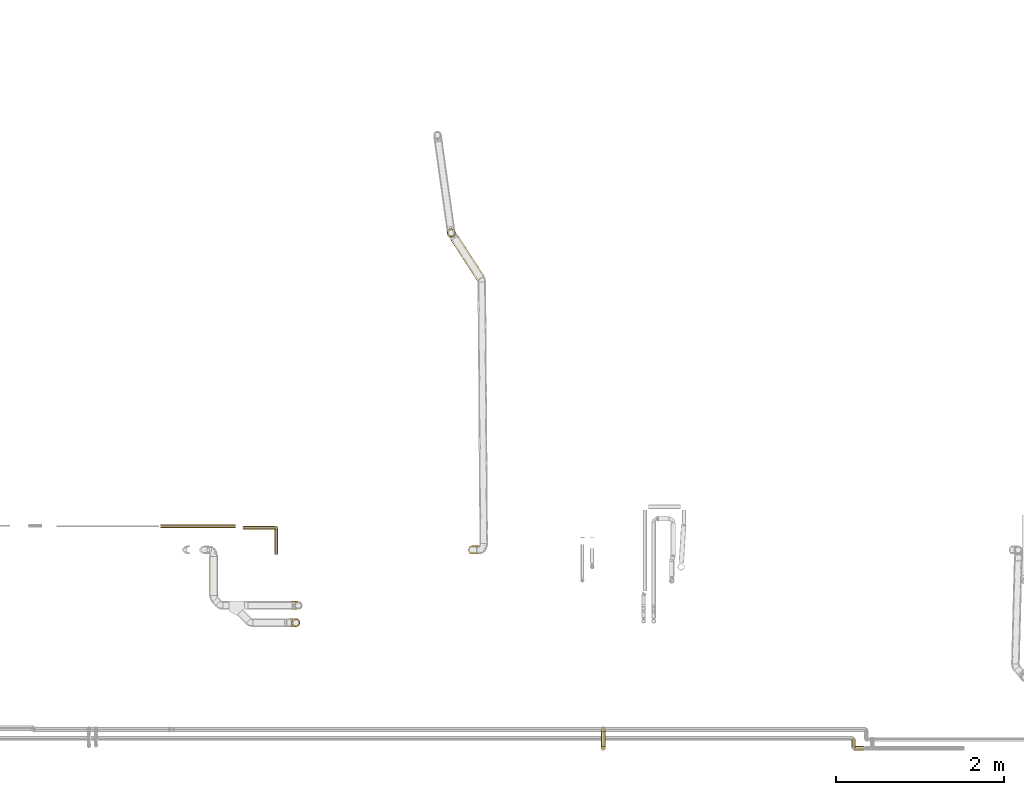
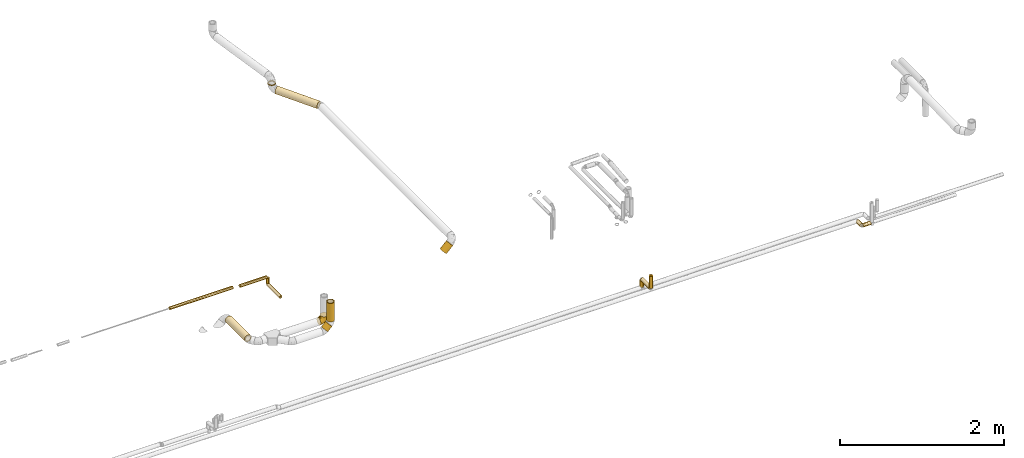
# One storey, part 6 of 156: 16 coverings.
"""IFC2X3 building model written with IfcOpenShell, lengths in millimetres."""

from ifc_helpers import new_model, entity, si_unit, converted_unit, derived_unit, direction, frame, origin_with_axes, origin_2d_with_axis, place, context, subcontext, project, spatial, hollow_circle, extrude, open_shell, surface_model, source, transform, mapped, element, save


model = new_model("IFC2X3")

# Units and contexts
model_context = context("Model", 3, precision=0.01, world=frame((0.0, 4.29681676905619e-09, 0.0)), true_north=direction((4.01073788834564e-13, 1.0)))
plan_context = context("Plan", 3, precision=0.01, world=frame((0.0, 4.29681676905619e-09, 0.0)), true_north=direction((4.01073788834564e-13, 1.0)))
body_context = subcontext(model_context, "Body", "Model", "MODEL_VIEW")
ifc_project = project(units=[converted_unit("PLANEANGLEUNIT", "DEGREE", entity("IfcPositiveLengthMeasure", 0.0174532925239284), si_unit("PLANEANGLEUNIT", "RADIAN"), dimensions=[0, 0, 0, 0, 0, 0, 0]), si_unit("AREAUNIT", "SQUARE_METRE"), si_unit("LENGTHUNIT", "METRE", prefix="MILLI"), si_unit("MASSUNIT", "GRAM", prefix="KILO"), si_unit("POWERUNIT", "WATT"), si_unit("PRESSUREUNIT", "PASCAL", prefix="KILO"), si_unit("FORCEUNIT", "NEWTON", prefix="KILO"), si_unit("ELECTRICVOLTAGEUNIT", "VOLT"), si_unit("ELECTRICCURRENTUNIT", "AMPERE"), si_unit("THERMODYNAMICTEMPERATUREUNIT", "DEGREE_CELSIUS"), si_unit("TIMEUNIT", "SECOND"), si_unit("VOLUMEUNIT", "CUBIC_METRE"), derived_unit("LINEARVELOCITYUNIT", [(si_unit("LENGTHUNIT", "METRE"), 1), (si_unit("TIMEUNIT", "SECOND"), -1)]), derived_unit("VOLUMETRICFLOWRATEUNIT", [(si_unit("VOLUMEUNIT", "CUBIC_METRE"), 1), (si_unit("TIMEUNIT", "SECOND"), -1)]), derived_unit("THERMALTRANSMITTANCEUNIT", [(si_unit("POWERUNIT", "WATT"), 1), (si_unit("THERMODYNAMICTEMPERATUREUNIT", "KELVIN"), -1), (si_unit("AREAUNIT", "SQUARE_METRE"), -1)]), derived_unit("SOUNDPRESSUREUNIT", [(si_unit("PRESSUREUNIT", "PASCAL"), 1)])], contexts=[model_context, plan_context])

# Site, building, storey
site_placement = place(None, frame((0.0, -4.29681676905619e-09, 0.0), z_axis=(0.0, 0.0, 1.0), x_axis=(1.0, 0.0, 0.0)))
site = spatial("IfcSite", under=ifc_project, at=site_placement, CompositionType="ELEMENT")
building_placement = place(site_placement, frame((0.0, 4.29681676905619e-09, 0.0), z_axis=(0.0, 0.0, 1.0), x_axis=(1.0, 0.0, 0.0)))
building = spatial("IfcBuilding", under=site, at=building_placement, Name="mc-building", CompositionType="ELEMENT")
storey_placement = place(building_placement, frame((0.0, 0.0, 205200.0), z_axis=(0.0, 0.0, 1.0), x_axis=(1.0, 0.0, 0.0)))
storey = spatial("IfcBuildingStorey", under=building, at=storey_placement, Name="Nivå D + 1,2 m", CompositionType="ELEMENT", Elevation=205200.0)

# Coverings
shared_shape_1 = source(origin_with_axes(), body_context, "Body", "SweptSolid", [
    extrude(hollow_circle(Radius=50.5, WallThickness=13.0, at=origin_2d_with_axis()), frame((0.0, 0.0, 0.0), z_axis=(1.0, 0.0, 0.0), x_axis=(0.0, 1.0, 0.0)), (0.0, 0.0, 1.0), 467.3),
])
covering_1_placement = place(storey_placement, frame((338407.25109, 461093.55164, 4098.75644), z_axis=(-0.707106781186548, 0.0, -0.707106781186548), x_axis=(0.0, -1.0, 0.0)))
element("IfcCovering", 1, at=covering_1_placement, inside=storey, Name="BI17T - Cellegummi 13 mm SPV fett", PredefinedType="INSULATION", context=body_context, shape_type="MappedRepresentation", body=[
    mapped(shared_shape_1, transform((0.0, 0.0, 0.0), scale=1.0)),
])
shared_shape_2 = source(origin_with_axes(), body_context, "Body", "SurfaceModel", [
    surface_model("IfcShellBasedSurfaceModel", [(11.24292, 75.0, 49.23258), (-31.47888, 75.0, 39.48835), (0.0, 75.0, 50.5), (31.49394, 75.0, 39.47635), (21.91909, 75.0, 45.49509), (45.50245, 75.0, 21.90382), (39.48835, 75.0, 31.47888), (-45.50245, 75.0, -21.90382), (-49.23258, 75.0, 11.24292), (-11.23089, 75.0, 49.23533), (-21.90382, 75.0, 45.50245), (-45.49509, 75.0, 21.91909), (-39.47635, 75.0, 31.49394), (-50.5, 75.0, 0.0), (49.23533, 75.0, 11.23089), (49.23258, 75.0, -11.24292), (39.47635, 75.0, -31.49394), (45.49509, 75.0, -21.91909), (31.47888, 75.0, -39.48835), (21.90382, 75.0, -45.50245), (-11.24292, 75.0, -49.23258), (11.23089, 75.0, -49.23533), (0.0, 75.0, -50.5), (-31.49394, 75.0, -39.47635), (-39.48835, 75.0, -31.47888), (-49.23533, 75.0, -11.23089), (-21.91909, 75.0, -45.49509), (50.5, 75.0, 0.0), (-75.0, 25.25, -43.73428), (-75.0, 50.5, 0.0), (-75.0, 48.77925, -13.07036), (-75.0, 43.73428, -25.25), (-75.0, 13.07036, 48.77925), (-75.0, 35.70889, -35.70889), (-75.0, 13.07036, -48.77925), (-75.0, 48.77925, 13.07036), (-75.0, 35.70889, 35.70889), (-75.0, 43.73428, 25.25), (-75.0, 25.25, 43.73428), (-75.0, 0.0, 50.5), (-75.0, 0.0, -50.5), (-75.0, -35.70889, -35.70889), (-75.0, -13.07036, -48.77925), (-75.0, -25.25, -43.73428), (-75.0, -25.25, 43.73428), (-75.0, -43.73428, -25.25), (-75.0, -48.77925, -13.07036), (-75.0, -50.5, 0.0), (-75.0, -35.70889, 35.70889), (-75.0, -13.07036, 48.77925), (-75.0, -43.73428, 25.25), (-75.0, -48.77925, 13.07036), (12.64934, -12.64934, 0.0), (26.53163, 1.23295, 0.0), (11.64011, -11.64012, 17.0697), (-36.21837, -44.35759, 0.0), (-43.96193, -45.82224, 8.69831), (-50.1633, -46.56625, 0.0), (-13.93902, -32.39238, 13.94061), (-27.04529, -32.26369, 27.28364), (-45.2062, -43.62199, 17.67364), (-52.64686, -39.03065, 29.20162), (6.1382, 52.8732, 49.67312), (-19.65704, -0.83379, 46.83764), (-49.45987, -19.06709, 45.22422), (-23.23209, -15.49393, 41.16316), (-49.7688, -7.34228, 49.26021), (-44.8156, -29.06527, 37.91745), (33.6367, 44.70154, 33.50702), (26.64162, 52.3117, 41.24235), (21.07138, 25.24575, 38.06097), (-4.22725, 24.69178, 49.09447), (-5.70904, 46.29874, 50.5), (-21.96699, 21.96699, 50.5), (0.2263, 8.20988, 43.53163), (35.45552, 17.83502, 10.6165), (44.35759, 36.21837, 0.0), (44.47618, 45.03363, 15.14065), (-46.29874, 5.70904, 50.5), (-27.11707, 6.63076, 49.78474), (33.03742, 23.23942, 23.31327), (41.55445, 52.84592, 25.41048), (46.56625, 50.1633, 0.0), (4.57882, -11.26336, 27.48812), (22.55206, 4.12106, 21.73596), (19.66588, 8.90627, 30.22564), (-1.23295, -26.53163, 0.0), (12.07449, 31.0651, 45.19532), (17.71923, 53.83757, 46.32595), (3.04218, -2.48883, 36.42539), (-13.45794, -19.37586, 33.63512), (-18.72566, -35.44461, 0.0), (35.44461, 18.72566, 0.0), (-48.52842, 68.17879, 16.68598), (-55.27416, 12.69306, 49.57038), (-58.88306, 3.20586, 50.5), (-38.27136, 29.97394, 47.59046), (-23.57111, 41.59228, 48.61379), (-36.94496, 65.19489, 35.7157), (-27.7375, 65.85146, 42.76423), (-61.4974, 42.7792, 30.74245), (-63.84733, 32.17071, 40.06434), (-51.42312, 36.25154, 40.88495), (-45.46439, 62.06116, 26.87553), (-43.34221, 68.87219, 26.87553), (-36.51863, 43.60511, 43.68418), (-65.25465, 51.47265, 9.82931), (-62.75, 53.78238, 0.0), (-68.875, 52.14119, 0.0), (-51.88239, 69.84084, 0.0), (-64.63162, 17.93727, 47.55155), (-67.6261, 47.6319, 19.32551), (-68.85458, 40.6091, 30.74245), (-44.41033, 19.8553, 49.06838), (-54.82145, 23.11094, 46.65592), (-18.51685, 60.44696, 47.66853), (-54.54935, 48.93662, 28.23238), (-62.70186, 49.7903, 18.59835), (-3.20586, 58.88306, 50.5), (-61.04403, 53.85982, 9.12542), (-30.90564, 55.6835, 42.76423), (-40.3113, 56.53409, 35.71531), (-52.18855, 61.13263, 14.72938), (-53.78238, 62.75, 0.0), (-56.73444, 57.02186, 10.61847), (-58.26619, 58.26619, 0.0), (-13.83801, 34.13287, 50.5), (-70.20679, 50.0494, 9.52724), (-46.98514, 47.44109, 35.7157), (-50.60359, 55.15507, 25.56392), (-52.83369, 43.2423, 35.13728), (-58.30018, 52.78702, 17.93024), (-34.13287, 13.83801, 50.5), (-51.7235, 52.67811, -26.88284), (-57.10258, 45.71425, -29.92521), (-56.9186, 54.00325, -17.71529), (-60.51936, 21.24165, -46.65592), (-70.0781, 47.08652, -19.32551), (-67.84416, 50.44944, -10.35086), (-64.15319, 48.81348, -19.32551), (-18.53163, 60.44501, -47.6637), (-62.8657, 52.46804, -10.44324), (-57.90228, 34.17845, -40.06435), (-65.95799, 41.25474, -30.74245), (-43.35228, 68.87084, -26.8602), (-48.5334, 68.17884, -16.67216), (-45.47548, 62.05985, -26.8602), (-36.95883, 65.19564, -35.70208), (-55.23148, 12.55824, -49.59768), (-52.18863, 61.13975, -14.71703), (-67.2194, 31.43175, -40.06434), (-55.97795, 58.02605, -9.97117), (-3.20586, 58.88306, -50.5), (-51.08787, 25.5783, -46.32865), (-41.32575, 29.23594, -47.11339), (-44.57478, 19.12548, -49.20135), (-23.58829, 41.57625, -48.61219), (-31.49814, 46.19734, -45.04631), (-38.07713, 57.85881, -37.07141), (-30.92319, 55.68162, -42.7546), (-38.79962, 50.15024, -39.79427), (-27.75338, 65.85005, -42.7546), (-40.50037, 40.68263, -43.08729), (-31.85017, 34.10086, -48.04724), (-5.70904, 46.29874, -50.5), (-21.96699, 21.96699, -50.5), (-13.83801, 34.13287, -50.5), (-32.99402, 23.81556, -49.7299), (-58.88306, 3.20586, -50.5), (-49.98369, 39.29273, -39.54988), (-47.00535, 47.43996, -35.70209), (-69.84084, 51.88239, 0.0), (-44.82061, 55.09846, -32.26415), (-49.27707, 57.82009, -24.66381), (-46.29874, 5.70904, -50.5), (-34.13287, 13.83801, -50.5), (-27.12034, 6.63398, -49.78551), (-44.8115, -29.06446, -37.91714), (-49.45933, -19.06701, -45.22419), (-23.22135, -15.48723, -41.1635), (3.03431, -2.47986, -36.43681), (0.21934, 8.21978, -43.53855), (21.06009, 25.25195, -38.07219), (19.65845, 8.91335, -30.23922), (-4.23256, 24.69711, -49.09625), (-49.7688, -7.34228, -49.26021), (-43.96192, -45.82226, -8.69822), (-45.20209, -43.62105, -17.67341), (-19.66242, -0.82834, -46.8407), (12.06287, 31.07048, -45.20169), (-52.64059, -39.02974, -29.20117), (-27.03461, -32.25951, -27.28279), (11.63925, -11.63926, -17.0731), (4.56555, -11.2681, -27.49661), (6.13272, 52.87845, -49.67434), (44.47172, 45.03273, -15.15371), (33.62422, 44.70155, -33.52058), (35.44701, 17.82392, -10.62791), (26.62716, 52.31215, -41.25239), (-13.93805, -32.39219, -13.93949), (22.54286, 4.11912, -21.74918), (33.03036, 23.24222, -23.32782), (41.54481, 52.84076, -25.42509), (-13.43916, -19.35244, -33.6456), (17.70473, 53.84028, -46.33234)], [open_shell([[[0, 1, 2]], [[3, 0, 4]], [[0, 5, 1]], [[6, 5, 0]], [[3, 6, 0]], [[5, 7, 8]], [[9, 1, 10]], [[9, 2, 1]], [[11, 12, 8]], [[8, 12, 1]], [[5, 8, 1]], [[7, 13, 8]], [[5, 14, 7]], [[7, 14, 15]], [[16, 15, 17]], [[16, 18, 19]], [[19, 20, 15]], [[19, 15, 16]], [[21, 22, 19]], [[7, 23, 24]], [[25, 13, 7]], [[20, 23, 7]], [[26, 23, 20]], [[7, 15, 20]], [[22, 20, 19]], [[14, 27, 15]], [[28, 29, 30]], [[28, 30, 31]], [[29, 28, 32]], [[28, 31, 33]], [[32, 28, 34]], [[35, 36, 37]], [[36, 35, 32]], [[36, 32, 38]], [[35, 29, 32]], [[34, 39, 32]], [[34, 40, 39]], [[41, 40, 42]], [[41, 42, 43]], [[44, 41, 45]], [[41, 44, 39]], [[46, 47, 45]], [[44, 47, 48]], [[49, 39, 44]], [[50, 47, 51]], [[47, 50, 48]], [[45, 47, 44]], [[39, 40, 41]], [[52, 53, 54]], [[55, 56, 57]], [[58, 59, 60]], [[60, 59, 61]], [[62, 0, 2]], [[63, 64, 65]], [[50, 51, 60]], [[49, 64, 66]], [[48, 67, 44]], [[61, 48, 50]], [[68, 69, 70]], [[69, 3, 4]], [[71, 72, 73]], [[39, 49, 66]], [[63, 65, 74]], [[75, 76, 77]], [[78, 79, 73]], [[75, 77, 80]], [[69, 68, 3]], [[64, 44, 67]], [[5, 77, 14]], [[48, 61, 67]], [[5, 6, 81]], [[77, 82, 14]], [[79, 71, 73]], [[54, 83, 58]], [[54, 84, 83]], [[68, 6, 3]], [[62, 2, 72]], [[68, 70, 85]], [[51, 57, 56]], [[54, 86, 52]], [[87, 88, 62]], [[87, 69, 88]], [[44, 64, 49]], [[83, 89, 90]], [[80, 77, 81]], [[56, 91, 58]], [[80, 68, 85]], [[81, 77, 5]], [[74, 71, 63]], [[60, 61, 50]], [[58, 60, 56]], [[58, 86, 54]], [[88, 69, 4]], [[70, 69, 87]], [[74, 70, 87]], [[70, 89, 85]], [[6, 68, 81]], [[80, 81, 68]], [[65, 64, 67]], [[63, 79, 66]], [[90, 67, 59]], [[74, 65, 89]], [[63, 66, 64]], [[39, 66, 78]], [[72, 71, 62]], [[87, 62, 71]], [[75, 80, 84]], [[75, 53, 92]], [[4, 0, 88]], [[62, 88, 0]], [[82, 77, 76]], [[82, 27, 14]], [[67, 61, 59]], [[51, 47, 57]], [[51, 56, 60]], [[66, 79, 78]], [[71, 79, 63]], [[83, 85, 89]], [[84, 80, 85]], [[90, 89, 65]], [[58, 83, 59]], [[67, 90, 65]], [[59, 83, 90]], [[83, 84, 85]], [[75, 84, 54]], [[70, 74, 89]], [[71, 74, 87]], [[54, 53, 75]], [[91, 56, 55]], [[91, 86, 58]], [[76, 75, 92]], [[11, 8, 93]], [[78, 94, 95]], [[96, 73, 97]], [[94, 32, 95]], [[98, 99, 1]], [[100, 101, 102]], [[103, 104, 93]], [[105, 102, 96]], [[106, 107, 108]], [[8, 109, 93]], [[110, 101, 38]], [[37, 111, 35]], [[36, 112, 37]], [[37, 112, 111]], [[8, 13, 109]], [[113, 96, 114]], [[97, 72, 115]], [[100, 116, 117]], [[98, 1, 12]], [[10, 99, 115]], [[32, 94, 110]], [[12, 11, 104]], [[115, 118, 9]], [[10, 115, 9]], [[106, 119, 107]], [[120, 99, 98]], [[121, 120, 98]], [[103, 93, 122]], [[93, 123, 122]], [[124, 123, 125]], [[97, 115, 120]], [[104, 98, 12]], [[38, 101, 36]], [[121, 98, 103]], [[97, 105, 96]], [[10, 1, 99]], [[97, 73, 126]], [[123, 93, 109]], [[111, 106, 127]], [[128, 129, 116]], [[129, 103, 122]], [[102, 101, 114]], [[112, 101, 100]], [[125, 119, 124]], [[129, 128, 121]], [[96, 102, 114]], [[130, 128, 116]], [[113, 114, 94]], [[97, 120, 105]], [[118, 115, 72]], [[118, 2, 9]], [[35, 127, 29]], [[115, 99, 120]], [[93, 104, 11]], [[98, 104, 103]], [[124, 129, 122]], [[119, 125, 107]], [[116, 129, 131]], [[32, 39, 95]], [[132, 113, 78]], [[94, 114, 110]], [[96, 132, 73]], [[78, 113, 94]], [[132, 96, 113]], [[101, 110, 114]], [[38, 32, 110]], [[127, 106, 108]], [[117, 106, 111]], [[121, 105, 120]], [[102, 105, 128]], [[29, 127, 108]], [[111, 127, 35]], [[129, 121, 103]], [[105, 121, 128]], [[117, 116, 131]], [[130, 100, 102]], [[101, 112, 36]], [[111, 112, 100]], [[100, 117, 111]], [[119, 117, 131]], [[117, 119, 106]], [[119, 131, 124]], [[129, 124, 131]], [[123, 124, 122]], [[100, 130, 116]], [[102, 128, 130]], [[126, 72, 97]], [[133, 134, 135]], [[28, 136, 34]], [[137, 138, 139]], [[140, 26, 20]], [[141, 138, 107]], [[134, 142, 143]], [[144, 145, 7]], [[146, 144, 147]], [[148, 34, 136]], [[145, 146, 149]], [[150, 28, 33]], [[31, 137, 143]], [[125, 151, 141]], [[28, 150, 136]], [[109, 13, 25]], [[140, 20, 152]], [[149, 123, 145]], [[153, 154, 155]], [[145, 123, 109]], [[145, 25, 7]], [[137, 31, 30]], [[148, 153, 155]], [[140, 156, 157]], [[23, 147, 24]], [[158, 159, 160]], [[23, 26, 161]], [[158, 147, 159]], [[162, 157, 163]], [[164, 140, 152]], [[31, 143, 33]], [[161, 147, 23]], [[161, 140, 159]], [[162, 160, 157]], [[156, 140, 164]], [[165, 156, 166]], [[24, 144, 7]], [[154, 167, 155]], [[109, 25, 145]], [[34, 148, 168]], [[162, 169, 170]], [[141, 151, 135]], [[30, 29, 171]], [[134, 143, 139]], [[150, 143, 142]], [[146, 172, 173]], [[149, 135, 151]], [[20, 22, 152]], [[140, 161, 26]], [[147, 161, 159]], [[147, 144, 24]], [[145, 144, 146]], [[135, 134, 139]], [[134, 170, 169]], [[141, 139, 138]], [[172, 133, 173]], [[168, 148, 174]], [[168, 40, 34]], [[167, 165, 175]], [[175, 174, 155]], [[148, 155, 174]], [[163, 167, 154]], [[175, 155, 167]], [[153, 148, 136]], [[136, 142, 153]], [[169, 153, 142]], [[162, 163, 154]], [[163, 156, 165]], [[154, 153, 169]], [[160, 162, 170]], [[154, 169, 162]], [[134, 169, 142]], [[172, 160, 170]], [[157, 160, 159]], [[133, 172, 170]], [[158, 146, 147]], [[134, 133, 170]], [[173, 135, 149]], [[140, 157, 159]], [[157, 156, 163]], [[160, 172, 158]], [[146, 158, 172]], [[135, 173, 133]], [[149, 151, 123]], [[149, 146, 173]], [[143, 150, 33]], [[136, 150, 142]], [[138, 30, 171]], [[143, 137, 139]], [[30, 138, 137]], [[107, 138, 171]], [[125, 141, 107]], [[135, 139, 141]], [[156, 164, 166]], [[165, 167, 163]], [[123, 151, 125]], [[174, 165, 176]], [[177, 178, 179]], [[180, 179, 181]], [[180, 182, 183]], [[165, 164, 184]], [[174, 185, 40]], [[178, 43, 42]], [[177, 43, 178]], [[186, 46, 187]], [[176, 184, 188]], [[181, 184, 189]], [[190, 187, 45]], [[45, 187, 46]], [[190, 177, 191]], [[52, 86, 192]], [[177, 41, 43]], [[183, 193, 180]], [[189, 184, 194]], [[22, 194, 164]], [[192, 53, 52]], [[22, 21, 194]], [[17, 15, 195]], [[16, 196, 18]], [[197, 76, 92]], [[195, 15, 82]], [[196, 198, 18]], [[199, 187, 191]], [[197, 192, 200]], [[201, 195, 197]], [[16, 17, 202]], [[189, 198, 182]], [[202, 17, 195]], [[76, 195, 82]], [[188, 178, 185]], [[177, 179, 203]], [[202, 201, 196]], [[183, 182, 196]], [[190, 45, 41]], [[18, 198, 19]], [[19, 198, 204]], [[46, 186, 57]], [[199, 91, 186]], [[199, 191, 193]], [[91, 55, 186]], [[182, 198, 196]], [[204, 198, 189]], [[183, 196, 201]], [[181, 182, 180]], [[201, 202, 195]], [[196, 16, 202]], [[185, 178, 42]], [[179, 178, 188]], [[181, 179, 188]], [[180, 193, 203]], [[40, 185, 42]], [[185, 174, 176]], [[194, 21, 204]], [[184, 164, 194]], [[76, 197, 195]], [[197, 53, 192]], [[194, 204, 189]], [[21, 19, 204]], [[15, 27, 82]], [[177, 190, 41]], [[187, 190, 191]], [[57, 186, 55]], [[57, 47, 46]], [[199, 186, 187]], [[184, 176, 165]], [[185, 176, 188]], [[201, 200, 183]], [[183, 200, 193]], [[199, 193, 192]], [[180, 203, 179]], [[193, 191, 203]], [[177, 203, 191]], [[197, 200, 201]], [[193, 200, 192]], [[184, 181, 188]], [[182, 181, 189]], [[192, 86, 199]], [[199, 86, 91]], [[92, 53, 197]]])]),
])
covering_2_placement = place(storey_placement, frame((339411.91478, 460509.27805, 4098.75644), z_axis=(0.0, 1.0, 0.0), x_axis=(0.0, 0.0, -1.0)))
element("IfcCovering", 2, at=covering_2_placement, inside=storey, Name="BI17T - Cellegummi 13 mm SPV fett", PredefinedType="INSULATION", context=body_context, shape_type="MappedRepresentation", body=[
    mapped(shared_shape_2, transform((0.0, 0.0, 0.0), scale=1.0)),
])
shared_shape_3 = source(origin_with_axes(), body_context, "Body", "SweptSolid", [
    extrude(hollow_circle(Radius=50.5, WallThickness=13.0, at=origin_2d_with_axis()), frame((0.0, 0.0, 0.0), z_axis=(1.0, 0.0, 0.0), x_axis=(0.0, 1.0, 0.0)), (0.0, 0.0, 1.0), 82.8),
])
covering_3_placement = place(storey_placement, frame((339303.08533, 460304.21708, 4120.20374999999), z_axis=(-0.707106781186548, 0.0, 0.707106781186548), x_axis=(0.707106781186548, 0.0, 0.707106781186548)))
element("IfcCovering", 3, at=covering_3_placement, inside=storey, Name="BI17T - Cellegummi 13 mm SPV fett", PredefinedType="INSULATION", context=body_context, shape_type="MappedRepresentation", body=[
    mapped(shared_shape_3, transform((0.0, 0.0, 0.0), scale=1.0)),
])
shared_shape_4 = source(origin_with_axes(), body_context, "Body", "SweptSolid", [
    extrude(hollow_circle(Radius=50.5, WallThickness=13.0, at=origin_2d_with_axis()), frame((0.0, 0.0, 0.0), z_axis=(1.0, 0.0, 0.0), x_axis=(0.0, 1.0, 0.0)), (0.0, 0.0, 1.0), 273.9),
])
covering_4_placement = place(storey_placement, frame((339383.61788, 460304.21708, 4231.80231999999), z_axis=(0.0, -1.0, 0.0), x_axis=(0.0, 0.0, 1.0)))
element("IfcCovering", 4, at=covering_4_placement, inside=storey, Name="BI17T - Cellegummi 13 mm SPV fett", PredefinedType="INSULATION", context=body_context, shape_type="MappedRepresentation", body=[
    mapped(shared_shape_4, transform((0.0, 0.0, 0.0), scale=1.0)),
])
shared_shape_5 = source(origin_with_axes(), body_context, "Body", "SweptSolid", [
    extrude(hollow_circle(Radius=50.5, WallThickness=13.0, at=origin_2d_with_axis()), frame((0.0, 0.0, 0.0), z_axis=(1.0, 0.0, 0.0), x_axis=(0.0, 1.0, 0.0)), (0.0, 0.0, 1.0), 128.7),
])
covering_5_placement = place(storey_placement, frame((341470.62028, 461168.61783, 3996.05163999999), z_axis=(-0.70624475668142, 0.0, 0.707967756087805), x_axis=(0.707967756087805, 0.0, 0.70624475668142)))
element("IfcCovering", 5, at=covering_5_placement, inside=storey, Name="BI17T - Cellegummi 13 mm SPV fett", PredefinedType="INSULATION", context=body_context, shape_type="MappedRepresentation", body=[
    mapped(shared_shape_5, transform((0.0, 0.0, 0.0), scale=1.0)),
])
shared_shape_6 = source(origin_with_axes(), body_context, "Body", "SweptSolid", [
    extrude(hollow_circle(Radius=50.5, WallThickness=13.0, at=origin_2d_with_axis()), frame((0.0, 0.0, 0.0), z_axis=(1.0, 0.0, 0.0), x_axis=(0.0, 1.0, 0.0)), (0.0, 0.0, 1.0), 575.7),
])
covering_6_placement = place(storey_placement, frame((341579.31471, 464393.95725, 4179.54822), z_axis=(-0.832218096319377, -0.54766000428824, 0.0864960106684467), x_axis=(-0.543311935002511, 0.836627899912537, 0.0697559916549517)))
element("IfcCovering", 6, at=covering_6_placement, inside=storey, Name="BI17T - Cellegummi 13 mm SPV fett", PredefinedType="INSULATION", context=body_context, shape_type="MappedRepresentation", body=[
    mapped(shared_shape_6, transform((0.0, 0.0, 0.0), scale=1.0)),
])
shared_shape_7 = source(origin_with_axes(), body_context, "Body", "SweptSolid", [
    extrude(hollow_circle(Radius=50.5, WallThickness=13.0, at=origin_2d_with_axis()), frame((0.0, 0.0, 0.0), z_axis=(1.0, 0.0, 0.0), x_axis=(0.0, 1.0, 0.0)), (0.0, 0.0, 1.0), 12.6),
])
covering_7_placement = place(storey_placement, frame((341228.50699, 464934.15376, 4294.52744999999), z_axis=(0.544638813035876, -0.838670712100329, 0.0), x_axis=(0.0, 0.0, 1.0)))
element("IfcCovering", 7, at=covering_7_placement, inside=storey, Name="BI17T - Cellegummi 13 mm SPV fett", PredefinedType="INSULATION", context=body_context, shape_type="MappedRepresentation", body=[
    mapped(shared_shape_7, transform((0.0, 0.0, 0.0), scale=1.0)),
])
shared_shape_8 = source(origin_with_axes(), body_context, "Body", "SweptSolid", [
    extrude(hollow_circle(Radius=25.0, WallThickness=20.0, at=origin_2d_with_axis()), frame((0.0, 0.0, 0.0), z_axis=(1.0, 0.0, 0.0), x_axis=(0.0, 1.0, 0.0)), (0.0, 0.0, 1.0), 102.1),
])
covering_8_placement = place(storey_placement, frame((343033.7464, 459036.28651, 4216.22044), z_axis=(-1.0, 0.0, 0.0), x_axis=(0.0, 0.0, 1.0)))
element("IfcCovering", 8, at=covering_8_placement, inside=storey, Name="BI10T - Cellegummi 18-32 mm kalde rør", PredefinedType="INSULATION", context=body_context, shape_type="MappedRepresentation", body=[
    mapped(shared_shape_8, transform((0.0, 0.0, 0.0), scale=1.0)),
])
shared_shape_9 = source(origin_with_axes(), body_context, "Body", "SweptSolid", [
    extrude(hollow_circle(Radius=25.0, WallThickness=20.0, at=origin_2d_with_axis()), frame((0.0, 0.0, 0.0), z_axis=(1.0, 0.0, 0.0), x_axis=(0.0, 1.0, 0.0)), (0.0, 0.0, 1.0), 205.0),
])
covering_9_placement = place(storey_placement, frame((343033.7464, 459026.28651, 4328.32044000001), z_axis=(0.0, 0.0, 1.0), x_axis=(0.0, -1.0, 0.0)))
element("IfcCovering", 9, at=covering_9_placement, inside=storey, Name="BI10T - Cellegummi 18-32 mm kalde rør", PredefinedType="INSULATION", context=body_context, shape_type="MappedRepresentation", body=[
    mapped(shared_shape_9, transform((0.0, 0.0, 0.0), scale=1.0)),
])
shared_shape_10 = source(origin_with_axes(), body_context, "Body", "SweptSolid", [
    extrude(hollow_circle(Radius=25.0, WallThickness=20.0, at=origin_2d_with_axis()), frame((0.0, 0.0, 0.0), z_axis=(1.0, 0.0, 0.0), x_axis=(0.0, 1.0, 0.0)), (0.0, 0.0, 1.0), 180.0),
])
covering_10_placement = place(storey_placement, frame((343033.7464, 458811.28651, 4338.32044000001), z_axis=(-1.0, 0.0, 0.0), x_axis=(0.0, 0.0, 1.0)))
element("IfcCovering", 10, at=covering_10_placement, inside=storey, Name="BI10T - Cellegummi 18-32 mm kalde rør", PredefinedType="INSULATION", context=body_context, shape_type="MappedRepresentation", body=[
    mapped(shared_shape_10, transform((0.0, 0.0, 0.0), scale=1.0)),
])
shared_shape_11 = source(origin_with_axes(), body_context, "Body", "SweptSolid", [
    extrude(hollow_circle(Radius=25.0, WallThickness=20.0, at=origin_2d_with_axis()), frame((0.0, 0.0, 0.0), z_axis=(1.0, 0.0, 0.0), x_axis=(0.0, 1.0, 0.0)), (0.0, 0.0, 1.0), 95.0),
])
covering_11_placement = place(storey_placement, frame((346005.0, 458918.61963, 4216.68835000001), z_axis=(0.0, 0.0, 1.0), x_axis=(0.0, -1.0, 0.0)))
element("IfcCovering", 11, at=covering_11_placement, inside=storey, Name="BI10T - Cellegummi 18-32 mm kalde rør", PredefinedType="INSULATION", context=body_context, shape_type="MappedRepresentation", body=[
    mapped(shared_shape_11, transform((0.0, 0.0, 0.0), scale=1.0)),
])
shared_shape_12 = source(origin_with_axes(), body_context, "Body", "SweptSolid", [
    extrude(hollow_circle(Radius=25.0, WallThickness=20.0, at=origin_2d_with_axis()), frame((0.0, 0.0, 0.0), z_axis=(1.0, 0.0, 0.0), x_axis=(0.0, 1.0, 0.0)), (0.0, 0.0, 1.0), 109.4),
])
covering_12_placement = place(storey_placement, frame((346015.0, 458813.61963, 4216.68835000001), z_axis=(0.0, 0.0, 1.0), x_axis=(1.0, 0.0, 0.0)))
element("IfcCovering", 12, at=covering_12_placement, inside=storey, Name="BI10T - Cellegummi 18-32 mm kalde rør", PredefinedType="INSULATION", context=body_context, shape_type="MappedRepresentation", body=[
    mapped(shared_shape_12, transform((0.0, 0.0, 0.0), scale=1.0)),
])
shared_shape_13 = source(origin_with_axes(), body_context, "Body", "SweptSolid", [
    extrude(hollow_circle(Radius=21.0, WallThickness=15.0, at=origin_2d_with_axis()), frame((0.0, 0.0, 0.0), z_axis=(1.0, 0.0, 0.0), x_axis=(0.0, 1.0, 0.0)), (0.0, 0.0, 1.0), 307.8),
])
covering_13_placement = place(storey_placement, frame((339150.42345, 461421.25946, 4159.22687000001), z_axis=(0.0, 0.0, 1.0), x_axis=(-0.0027030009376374, -0.999996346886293, 0.0)))
element("IfcCovering", 13, at=covering_13_placement, inside=storey, Name="BI10T - Cellegummi 18-32 mm kalde rør", PredefinedType="INSULATION", context=body_context, shape_type="MappedRepresentation", body=[
    mapped(shared_shape_13, transform((0.0, 0.0, 0.0), scale=1.0)),
])
shared_shape_14 = source(origin_with_axes(), body_context, "Body", "SweptSolid", [
    extrude(hollow_circle(Radius=21.0, WallThickness=15.0, at=origin_2d_with_axis()), frame((0.0, 0.0, 0.0), z_axis=(1.0, 0.0, 0.0), x_axis=(0.0, 1.0, 0.0)), (0.0, 0.0, 1.0), 83.7),
])
covering_14_placement = place(storey_placement, frame((339150.45588, 461433.25941, 4254.92687), z_axis=(0.0, -1.0, 0.0), x_axis=(0.0, 0.0, -1.0)))
element("IfcCovering", 14, at=covering_14_placement, inside=storey, Name="BI10T - Cellegummi 18-32 mm kalde rør", PredefinedType="INSULATION", context=body_context, shape_type="MappedRepresentation", body=[
    mapped(shared_shape_14, transform((0.0, 0.0, 0.0), scale=1.0)),
])
shared_shape_15 = source(origin_with_axes(), body_context, "Body", "SweptSolid", [
    extrude(hollow_circle(Radius=21.0, WallThickness=15.0, at=origin_2d_with_axis()), frame((0.0, 0.0, 0.0), z_axis=(1.0, 0.0, 0.0), x_axis=(0.0, 1.0, 0.0)), (0.0, 0.0, 1.0), 890.5),
])
covering_15_placement = place(storey_placement, frame((338667.23341, 461450.75941, 4266.92687), z_axis=(0.0, 0.0, 1.0), x_axis=(-1.0, 0.0, 0.0)))
element("IfcCovering", 15, at=covering_15_placement, inside=storey, Name="BI10T - Cellegummi 18-32 mm kalde rør", PredefinedType="INSULATION", context=body_context, shape_type="MappedRepresentation", body=[
    mapped(shared_shape_15, transform((0.0, 0.0, 0.0), scale=1.0)),
])
shared_shape_16 = source(origin_with_axes(), body_context, "Body", "SweptSolid", [
    extrude(hollow_circle(Radius=21.0, WallThickness=15.0, at=origin_2d_with_axis()), frame((0.0, 0.0, 0.0), z_axis=(1.0, 0.0, 0.0), x_axis=(0.0, 1.0, 0.0)), (0.0, 0.0, 1.0), 383.8),
])
covering_16_placement = place(storey_placement, frame((339138.45588, 461433.25941, 4266.92687), z_axis=(0.0, 0.0, 1.0), x_axis=(-1.0, 0.0, 0.0)))
element("IfcCovering", 16, at=covering_16_placement, inside=storey, Name="BI10T - Cellegummi 18-32 mm kalde rør", PredefinedType="INSULATION", context=body_context, shape_type="MappedRepresentation", body=[
    mapped(shared_shape_16, transform((0.0, 0.0, 0.0), scale=1.0)),
])

save(model, "model.ifc")
